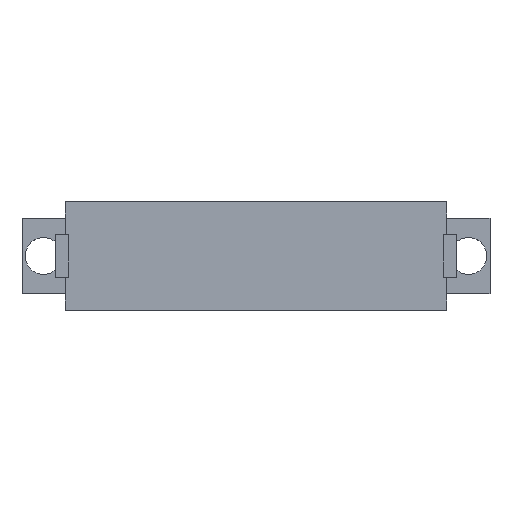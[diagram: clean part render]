
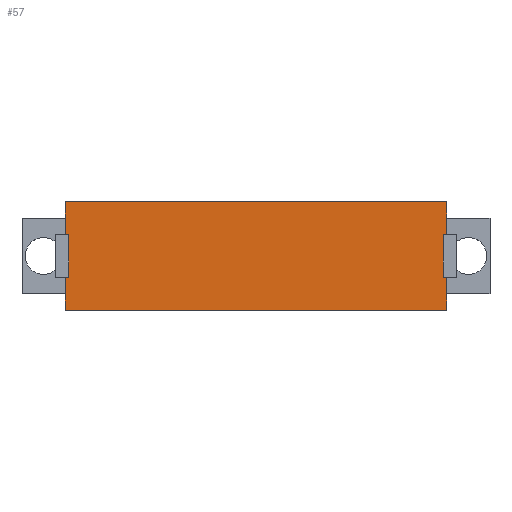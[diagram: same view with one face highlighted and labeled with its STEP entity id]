
A CAD part, top view. The second image highlights one B-rep face of the part: STEP entity #57.
In plain terms, the highlighted planar face has unit normal (0, 0, 1).
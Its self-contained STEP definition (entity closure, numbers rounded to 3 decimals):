
#21 = EDGE_CURVE('',#22,#24,#26,.T.);
#22 = VERTEX_POINT('',#23);
#23 = CARTESIAN_POINT('',(-17.6,-8.225,73.538));
#24 = VERTEX_POINT('',#25);
#25 = CARTESIAN_POINT('',(-17.6,-6.725,73.538));
#26 = LINE('',#27,#28);
#27 = CARTESIAN_POINT('',(-17.6,-8.225,73.538));
#28 = VECTOR('',#29,1.);
#29 = DIRECTION('',(0.,1.,0.));
#57 = ADVANCED_FACE('',(#58),#179,.T.);
#58 = FACE_BOUND('',#59,.T.);
#59 = EDGE_LOOP('',(#60,#61,#69,#77,#85,#93,#101,#109,#117,#125,#133,
    #141,#149,#157,#165,#173));
#60 = ORIENTED_EDGE('',*,*,#21,.F.);
#61 = ORIENTED_EDGE('',*,*,#62,.T.);
#62 = EDGE_CURVE('',#22,#63,#65,.T.);
#63 = VERTEX_POINT('',#64);
#64 = CARTESIAN_POINT('',(17.6,-8.225,73.538));
#65 = LINE('',#66,#67);
#66 = CARTESIAN_POINT('',(-17.6,-8.225,73.538));
#67 = VECTOR('',#68,1.);
#68 = DIRECTION('',(1.,0.,0.));
#69 = ORIENTED_EDGE('',*,*,#70,.T.);
#70 = EDGE_CURVE('',#63,#71,#73,.T.);
#71 = VERTEX_POINT('',#72);
#72 = CARTESIAN_POINT('',(17.6,-6.725,73.538));
#73 = LINE('',#74,#75);
#74 = CARTESIAN_POINT('',(17.6,-8.225,73.538));
#75 = VECTOR('',#76,1.);
#76 = DIRECTION('',(0.,1.,0.));
#77 = ORIENTED_EDGE('',*,*,#78,.T.);
#78 = EDGE_CURVE('',#71,#79,#81,.T.);
#79 = VERTEX_POINT('',#80);
#80 = CARTESIAN_POINT('',(17.6,-5.185,73.538));
#81 = LINE('',#82,#83);
#82 = CARTESIAN_POINT('',(17.6,-8.225,73.538));
#83 = VECTOR('',#84,1.);
#84 = DIRECTION('',(0.,1.,0.));
#85 = ORIENTED_EDGE('',*,*,#86,.T.);
#86 = EDGE_CURVE('',#79,#87,#89,.T.);
#87 = VERTEX_POINT('',#88);
#88 = CARTESIAN_POINT('',(17.3,-5.185,73.538));
#89 = LINE('',#90,#91);
#90 = CARTESIAN_POINT('',(-0.15,-5.185,73.538));
#91 = VECTOR('',#92,1.);
#92 = DIRECTION('',(-1.,0.,0.));
#93 = ORIENTED_EDGE('',*,*,#94,.T.);
#94 = EDGE_CURVE('',#87,#95,#97,.T.);
#95 = VERTEX_POINT('',#96);
#96 = CARTESIAN_POINT('',(17.3,-1.265,73.538));
#97 = LINE('',#98,#99);
#98 = CARTESIAN_POINT('',(17.3,-6.705,73.538));
#99 = VECTOR('',#100,1.);
#100 = DIRECTION('',(0.,1.,0.));
#101 = ORIENTED_EDGE('',*,*,#102,.F.);
#102 = EDGE_CURVE('',#103,#95,#105,.T.);
#103 = VERTEX_POINT('',#104);
#104 = CARTESIAN_POINT('',(17.6,-1.265,73.538));
#105 = LINE('',#106,#107);
#106 = CARTESIAN_POINT('',(-0.15,-1.265,73.538));
#107 = VECTOR('',#108,1.);
#108 = DIRECTION('',(-1.,0.,0.));
#109 = ORIENTED_EDGE('',*,*,#110,.T.);
#110 = EDGE_CURVE('',#103,#111,#113,.T.);
#111 = VERTEX_POINT('',#112);
#112 = CARTESIAN_POINT('',(17.6,0.275,73.538));
#113 = LINE('',#114,#115);
#114 = CARTESIAN_POINT('',(17.6,-8.225,73.538));
#115 = VECTOR('',#116,1.);
#116 = DIRECTION('',(0.,1.,0.));
#117 = ORIENTED_EDGE('',*,*,#118,.T.);
#118 = EDGE_CURVE('',#111,#119,#121,.T.);
#119 = VERTEX_POINT('',#120);
#120 = CARTESIAN_POINT('',(17.6,1.775,73.538));
#121 = LINE('',#122,#123);
#122 = CARTESIAN_POINT('',(17.6,-8.225,73.538));
#123 = VECTOR('',#124,1.);
#124 = DIRECTION('',(0.,1.,0.));
#125 = ORIENTED_EDGE('',*,*,#126,.F.);
#126 = EDGE_CURVE('',#127,#119,#129,.T.);
#127 = VERTEX_POINT('',#128);
#128 = CARTESIAN_POINT('',(-17.6,1.775,73.538));
#129 = LINE('',#130,#131);
#130 = CARTESIAN_POINT('',(-17.6,1.775,73.538));
#131 = VECTOR('',#132,1.);
#132 = DIRECTION('',(1.,0.,0.));
#133 = ORIENTED_EDGE('',*,*,#134,.F.);
#134 = EDGE_CURVE('',#135,#127,#137,.T.);
#135 = VERTEX_POINT('',#136);
#136 = CARTESIAN_POINT('',(-17.6,0.275,73.538));
#137 = LINE('',#138,#139);
#138 = CARTESIAN_POINT('',(-17.6,-8.225,73.538));
#139 = VECTOR('',#140,1.);
#140 = DIRECTION('',(0.,1.,0.));
#141 = ORIENTED_EDGE('',*,*,#142,.F.);
#142 = EDGE_CURVE('',#143,#135,#145,.T.);
#143 = VERTEX_POINT('',#144);
#144 = CARTESIAN_POINT('',(-17.6,-1.265,73.538));
#145 = LINE('',#146,#147);
#146 = CARTESIAN_POINT('',(-17.6,-8.225,73.538));
#147 = VECTOR('',#148,1.);
#148 = DIRECTION('',(0.,1.,0.));
#149 = ORIENTED_EDGE('',*,*,#150,.F.);
#150 = EDGE_CURVE('',#151,#143,#153,.T.);
#151 = VERTEX_POINT('',#152);
#152 = CARTESIAN_POINT('',(-17.3,-1.265,73.538));
#153 = LINE('',#154,#155);
#154 = CARTESIAN_POINT('',(-18.05,-1.265,73.538));
#155 = VECTOR('',#156,1.);
#156 = DIRECTION('',(-1.,0.,0.));
#157 = ORIENTED_EDGE('',*,*,#158,.F.);
#158 = EDGE_CURVE('',#159,#151,#161,.T.);
#159 = VERTEX_POINT('',#160);
#160 = CARTESIAN_POINT('',(-17.3,-5.185,73.538));
#161 = LINE('',#162,#163);
#162 = CARTESIAN_POINT('',(-17.3,-6.705,73.538));
#163 = VECTOR('',#164,1.);
#164 = DIRECTION('',(0.,1.,0.));
#165 = ORIENTED_EDGE('',*,*,#166,.T.);
#166 = EDGE_CURVE('',#159,#167,#169,.T.);
#167 = VERTEX_POINT('',#168);
#168 = CARTESIAN_POINT('',(-17.6,-5.185,73.538));
#169 = LINE('',#170,#171);
#170 = CARTESIAN_POINT('',(-18.05,-5.185,73.538));
#171 = VECTOR('',#172,1.);
#172 = DIRECTION('',(-1.,0.,0.));
#173 = ORIENTED_EDGE('',*,*,#174,.F.);
#174 = EDGE_CURVE('',#24,#167,#175,.T.);
#175 = LINE('',#176,#177);
#176 = CARTESIAN_POINT('',(-17.6,-8.225,73.538));
#177 = VECTOR('',#178,1.);
#178 = DIRECTION('',(0.,1.,0.));
#179 = PLANE('',#180);
#180 = AXIS2_PLACEMENT_3D('',#181,#182,#183);
#181 = CARTESIAN_POINT('',(-17.6,-8.225,73.538));
#182 = DIRECTION('',(0.,0.,1.));
#183 = DIRECTION('',(1.,0.,0.));
